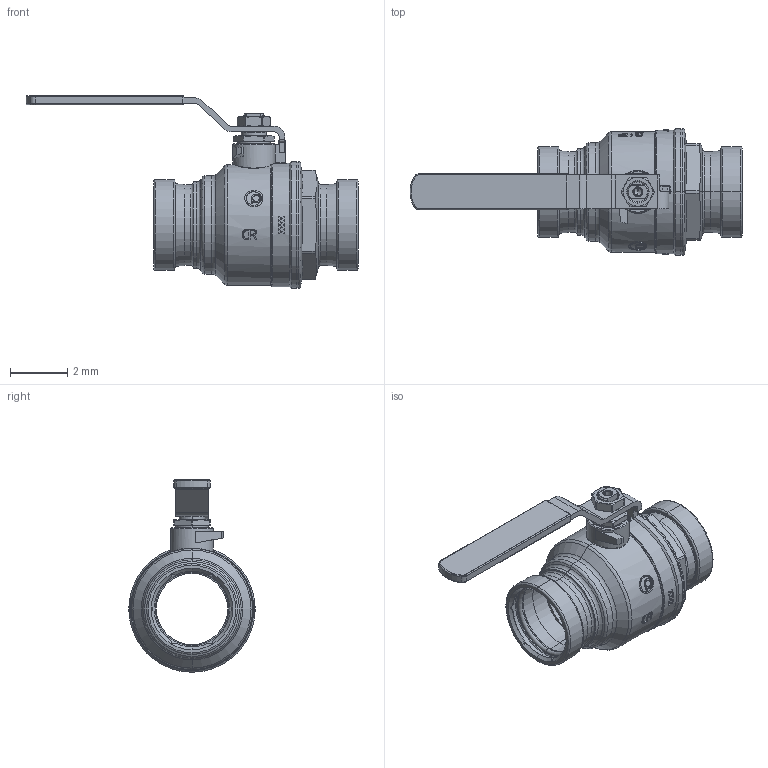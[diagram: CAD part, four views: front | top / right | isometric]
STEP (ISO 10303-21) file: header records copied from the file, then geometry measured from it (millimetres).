
FILE_DESCRIPTION(('Open CASCADE Model'),'2;1');
FILE_NAME('Open CASCADE Shape Model','2022-05-20T15:03:15',('Author'),( 'Open CASCADE'),'Open CASCADE STEP processor 7.3','Open CASCADE 7.3' ,'Unknown');
FILE_SCHEMA(('AUTOMOTIVE_DESIGN { 1 0 10303 214 1 1 1 1 }'));
Length unit declared in the file: millimetre
Products named in the file (24): Open CASCADE STEP translator 7.3 1; Open CASCADE STEP translator 7.3 1.1; Open CASCADE STEP translator 7.3 1.2; Open CASCADE STEP translator 7.3 1.3; Open CASCADE STEP translator 7.3 1.4; Open CASCADE STEP translator 7.3 1.5; Open CASCADE STEP translator 7.3 1.6; Open CASCADE STEP translator 7.3 1.7; Open CASCADE STEP translator 7.3 1.8; Open CASCADE STEP translator 7.3 1.9; Open CASCADE STEP translator 7.3 1.10; Open CASCADE STEP translator 7.3 1.11; Open CASCADE STEP translator 7.3 1.12; Open CASCADE STEP translator 7.3 1.13; Open CASCADE STEP translator 7.3 1.14; Open CASCADE STEP translator 7.3 1.15; Open CASCADE STEP translator 7.3 1.16; Open CASCADE STEP translator 7.3 1.17; Open CASCADE STEP translator 7.3 1.18; Open CASCADE STEP translator 7.3 1.19; Open CASCADE STEP translator 7.3 1.20; Open CASCADE STEP translator 7.3 1.21; Open CASCADE STEP translator 7.3 1.22; Open CASCADE STEP translator 7.3 1.23
Assembly tree (23 placements, depth 2):
  Open CASCADE STEP translator 7.3 1
    Open CASCADE STEP translator 7.3 1.1
    Open CASCADE STEP translator 7.3 1.2
    Open CASCADE STEP translator 7.3 1.3
    Open CASCADE STEP translator 7.3 1.4
    Open CASCADE STEP translator 7.3 1.5
    Open CASCADE STEP translator 7.3 1.6
    Open CASCADE STEP translator 7.3 1.7
    Open CASCADE STEP translator 7.3 1.8
    Open CASCADE STEP translator 7.3 1.9
    Open CASCADE STEP translator 7.3 1.10
    Open CASCADE STEP translator 7.3 1.11
    Open CASCADE STEP translator 7.3 1.12
    Open CASCADE STEP translator 7.3 1.13
    Open CASCADE STEP translator 7.3 1.14
    Open CASCADE STEP translator 7.3 1.15
    Open CASCADE STEP translator 7.3 1.16
    Open CASCADE STEP translator 7.3 1.17
    Open CASCADE STEP translator 7.3 1.18
    Open CASCADE STEP translator 7.3 1.19
    Open CASCADE STEP translator 7.3 1.20
    Open CASCADE STEP translator 7.3 1.21
    Open CASCADE STEP translator 7.3 1.22
    Open CASCADE STEP translator 7.3 1.23
Bounding box: 11.58 x 4.41 x 6.72 mm (x, y, z)
Volume: 31.4 mm3; surface area: 439.1 mm2
Topology: 15 solids, 23 shells, 1015 faces, 2562 edges, 1613 vertices
Faces by surface type: cylinder 230, plane 208, bspline 170, extrusion 159, cone 115, torus 107, revolution 16, sphere 10
Entity records: 93115 total; most frequent: CARTESIAN_POINT 46282, DIRECTION 7103, ORIENTED_EDGE 5068, PCURVE 5068, DEFINITIONAL_REPRESENTATION 5068, VECTOR 3861, LINE 3702, B_SPLINE_CURVE_WITH_KNOTS 2940
